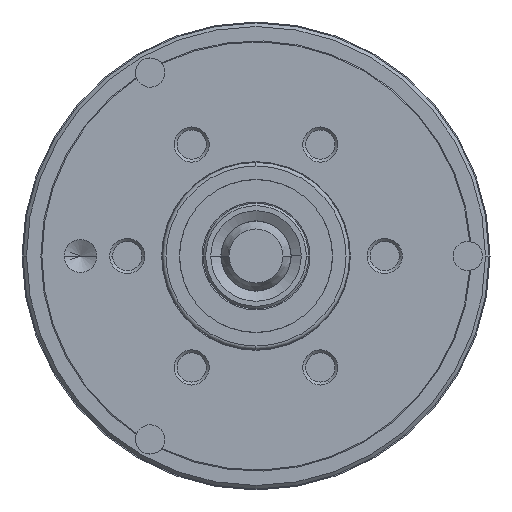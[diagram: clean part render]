
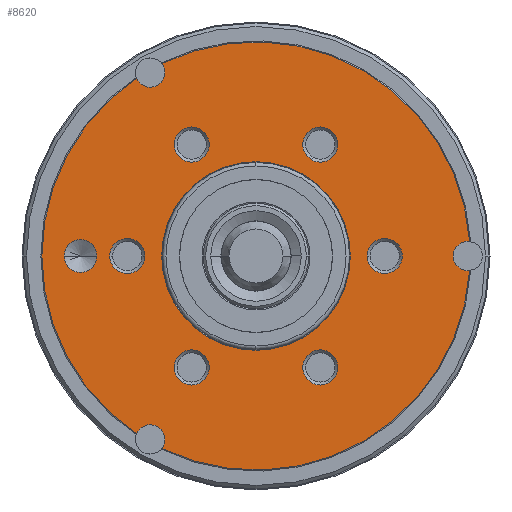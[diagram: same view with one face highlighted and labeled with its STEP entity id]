
A CAD part, left-side view. The second image highlights one B-rep face of the part: STEP entity #8620.
In plain terms, the highlighted planar face has unit normal (-1, 0, 0).
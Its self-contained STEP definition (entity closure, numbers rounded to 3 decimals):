
#977=CARTESIAN_POINT('',(-0.05,0.,0.));
#978=DIRECTION('',(-1.,0.,0.));
#979=DIRECTION('',(0.,0.44,-0.898));
#980=AXIS2_PLACEMENT_3D('',#977,#978,#979);
#994=CARTESIAN_POINT('',(-0.05,9.05,-15.675));
#995=DIRECTION('',(1.,0.,0.));
#996=DIRECTION('',(0.,0.922,0.387));
#997=AXIS2_PLACEMENT_3D('',#994,#995,#996);
#1065=CARTESIAN_POINT('',(-0.05,0.,0.));
#1066=DIRECTION('',(-1.,0.,0.));
#1067=DIRECTION('',(0.,0.558,0.83));
#1068=AXIS2_PLACEMENT_3D('',#1065,#1066,#1067);
#1090=CARTESIAN_POINT('',(-0.05,9.05,15.675));
#1091=DIRECTION('',(1.,0.,0.));
#1092=DIRECTION('',(0.,-0.796,0.605));
#1093=AXIS2_PLACEMENT_3D('',#1090,#1091,#1092);
#1153=CARTESIAN_POINT('',(-0.05,0.,0.));
#1154=DIRECTION('',(-1.,0.,0.));
#1155=DIRECTION('',(0.,-0.998,0.068));
#1156=AXIS2_PLACEMENT_3D('',#1153,#1154,#1155);
#1178=CARTESIAN_POINT('',(-0.05,-18.1,0.));
#1179=DIRECTION('',(1.,0.,0.));
#1180=DIRECTION('',(0.,-0.126,-0.992));
#1181=AXIS2_PLACEMENT_3D('',#1178,#1179,#1180);
#1232=CARTESIAN_POINT('',(-0.05,0.,0.));
#1233=DIRECTION('',(1.,0.,0.));
#1234=DIRECTION('',(0.,1.,0.));
#1235=AXIS2_PLACEMENT_3D('',#1232,#1233,#1234);
#1240=CARTESIAN_POINT('',(-0.05,0.,0.));
#1241=DIRECTION('',(-1.,0.,0.));
#1242=DIRECTION('',(0.,1.,0.));
#1243=AXIS2_PLACEMENT_3D('',#1240,#1241,#1242);
#1248=CARTESIAN_POINT('',(-0.05,11.,0.));
#1249=DIRECTION('',(-1.,0.,0.));
#1250=DIRECTION('',(0.,1.,0.));
#1251=AXIS2_PLACEMENT_3D('',#1248,#1249,#1250);
#1256=CARTESIAN_POINT('',(-0.05,11.,0.));
#1257=DIRECTION('',(-1.,0.,0.));
#1258=DIRECTION('',(0.,-1.,0.));
#1259=AXIS2_PLACEMENT_3D('',#1256,#1257,#1258);
#1264=CARTESIAN_POINT('',(-0.05,5.5,9.526));
#1265=DIRECTION('',(-1.,0.,0.));
#1266=DIRECTION('',(0.,0.5,0.866));
#1267=AXIS2_PLACEMENT_3D('',#1264,#1265,#1266);
#1272=CARTESIAN_POINT('',(-0.05,5.5,9.526));
#1273=DIRECTION('',(-1.,0.,0.));
#1274=DIRECTION('',(0.,-0.5,-0.866));
#1275=AXIS2_PLACEMENT_3D('',#1272,#1273,#1274);
#1280=CARTESIAN_POINT('',(-0.05,-5.5,9.526));
#1281=DIRECTION('',(-1.,0.,0.));
#1282=DIRECTION('',(0.,-0.5,0.866));
#1283=AXIS2_PLACEMENT_3D('',#1280,#1281,#1282);
#1288=CARTESIAN_POINT('',(-0.05,-5.5,9.526));
#1289=DIRECTION('',(-1.,0.,0.));
#1290=DIRECTION('',(0.,0.5,-0.866));
#1291=AXIS2_PLACEMENT_3D('',#1288,#1289,#1290);
#1296=CARTESIAN_POINT('',(-0.05,-11.,0.));
#1297=DIRECTION('',(-1.,0.,0.));
#1298=DIRECTION('',(0.,-1.,0.));
#1299=AXIS2_PLACEMENT_3D('',#1296,#1297,#1298);
#1304=CARTESIAN_POINT('',(-0.05,-11.,0.));
#1305=DIRECTION('',(-1.,0.,0.));
#1306=DIRECTION('',(0.,1.,0.));
#1307=AXIS2_PLACEMENT_3D('',#1304,#1305,#1306);
#1312=CARTESIAN_POINT('',(-0.05,-5.5,-9.526));
#1313=DIRECTION('',(-1.,0.,0.));
#1314=DIRECTION('',(0.,-0.5,-0.866));
#1315=AXIS2_PLACEMENT_3D('',#1312,#1313,#1314);
#1320=CARTESIAN_POINT('',(-0.05,-5.5,-9.526));
#1321=DIRECTION('',(-1.,0.,0.));
#1322=DIRECTION('',(0.,0.5,0.866));
#1323=AXIS2_PLACEMENT_3D('',#1320,#1321,#1322);
#1328=CARTESIAN_POINT('',(-0.05,5.5,-9.526));
#1329=DIRECTION('',(-1.,0.,0.));
#1330=DIRECTION('',(0.,0.5,-0.866));
#1331=AXIS2_PLACEMENT_3D('',#1328,#1329,#1330);
#1336=CARTESIAN_POINT('',(-0.05,5.5,-9.526));
#1337=DIRECTION('',(-1.,0.,0.));
#1338=DIRECTION('',(0.,-0.5,0.866));
#1339=AXIS2_PLACEMENT_3D('',#1336,#1337,#1338);
#1344=CARTESIAN_POINT('',(-0.05,15.,0.));
#1345=DIRECTION('',(-1.,0.,0.));
#1346=DIRECTION('',(0.,1.,0.));
#1347=AXIS2_PLACEMENT_3D('',#1344,#1345,#1346);
#1352=CARTESIAN_POINT('',(-0.05,15.,0.));
#1353=DIRECTION('',(-1.,0.,0.));
#1354=DIRECTION('',(0.,-1.,0.));
#1355=AXIS2_PLACEMENT_3D('',#1352,#1353,#1354);
#6630=CARTESIAN_POINT('',(-0.05,12.5,0.));
#6631=CARTESIAN_POINT('',(-0.05,9.5,0.));
#6632=VERTEX_POINT('',#6630);
#6633=VERTEX_POINT('',#6631);
#6654=CARTESIAN_POINT('',(-0.05,6.25,10.825));
#6655=CARTESIAN_POINT('',(-0.05,4.75,8.227));
#6656=VERTEX_POINT('',#6654);
#6657=VERTEX_POINT('',#6655);
#6658=CARTESIAN_POINT('',(-0.05,-6.25,10.825));
#6659=CARTESIAN_POINT('',(-0.05,-4.75,8.227));
#6660=VERTEX_POINT('',#6658);
#6661=VERTEX_POINT('',#6659);
#6662=CARTESIAN_POINT('',(-0.05,-12.5,0.));
#6663=CARTESIAN_POINT('',(-0.05,-9.5,0.));
#6664=VERTEX_POINT('',#6662);
#6665=VERTEX_POINT('',#6663);
#6666=CARTESIAN_POINT('',(-0.05,-6.25,-10.825));
#6667=CARTESIAN_POINT('',(-0.05,-4.75,-8.227));
#6668=VERTEX_POINT('',#6666);
#6669=VERTEX_POINT('',#6667);
#6670=CARTESIAN_POINT('',(-0.05,6.25,-10.825));
#6671=CARTESIAN_POINT('',(-0.05,4.75,-8.227));
#6672=VERTEX_POINT('',#6670);
#6673=VERTEX_POINT('',#6671);
#6680=CARTESIAN_POINT('',(-0.05,16.4,0.));
#6681=CARTESIAN_POINT('',(-0.05,13.6,0.));
#6682=VERTEX_POINT('',#6680);
#6683=VERTEX_POINT('',#6681);
#6684=CARTESIAN_POINT('',(-0.05,8.058,0.));
#6685=CARTESIAN_POINT('',(-0.05,-8.058,0.));
#6686=VERTEX_POINT('',#6684);
#6687=VERTEX_POINT('',#6685);
#6688=CARTESIAN_POINT('',(-0.05,-18.258,
-1.24));
#6689=CARTESIAN_POINT('',(-0.05,-18.258,
1.24));
#6690=VERTEX_POINT('',#6688);
#6691=VERTEX_POINT('',#6689);
#6692=CARTESIAN_POINT('',(-0.05,8.055,
-16.432));
#6693=VERTEX_POINT('',#6692);
#6694=CARTESIAN_POINT('',(-0.05,10.203,
-15.192));
#6695=VERTEX_POINT('',#6694);
#6696=CARTESIAN_POINT('',(-0.05,8.055,
16.432));
#6697=VERTEX_POINT('',#6696);
#6698=CARTESIAN_POINT('',(-0.05,10.203,
15.192));
#6699=VERTEX_POINT('',#6698);
#8559=CARTESIAN_POINT('',(-0.05,0.,0.));
#8560=DIRECTION('',(1.,0.,0.));
#8561=DIRECTION('',(0.,-1.,0.));
#8562=AXIS2_PLACEMENT_3D('',#8559,#8560,#8561);
#8563=PLANE('',#8562);
#8564=ORIENTED_EDGE('',*,*,#8465,.F.);
#8565=ORIENTED_EDGE('',*,*,#8506,.F.);
#8566=ORIENTED_EDGE('',*,*,#8526,.F.);
#8567=ORIENTED_EDGE('',*,*,#8381,.F.);
#8568=ORIENTED_EDGE('',*,*,#8397,.F.);
#8569=ORIENTED_EDGE('',*,*,#8444,.F.);
#8570=EDGE_LOOP('',(#8564,#8565,#8566,#8567,#8568,#8569));
#8571=FACE_OUTER_BOUND('',#8570,.F.);
#8573=ORIENTED_EDGE('',*,*,#8572,.F.);
#8575=ORIENTED_EDGE('',*,*,#8574,.T.);
#8576=EDGE_LOOP('',(#8573,#8575));
#8577=FACE_BOUND('',#8576,.F.);
#8579=ORIENTED_EDGE('',*,*,#8578,.T.);
#8581=ORIENTED_EDGE('',*,*,#8580,.T.);
#8582=EDGE_LOOP('',(#8579,#8581));
#8583=FACE_BOUND('',#8582,.F.);
#8585=ORIENTED_EDGE('',*,*,#8584,.T.);
#8587=ORIENTED_EDGE('',*,*,#8586,.T.);
#8588=EDGE_LOOP('',(#8585,#8587));
#8589=FACE_BOUND('',#8588,.F.);
#8591=ORIENTED_EDGE('',*,*,#8590,.T.);
#8593=ORIENTED_EDGE('',*,*,#8592,.T.);
#8594=EDGE_LOOP('',(#8591,#8593));
#8595=FACE_BOUND('',#8594,.F.);
#8597=ORIENTED_EDGE('',*,*,#8596,.T.);
#8599=ORIENTED_EDGE('',*,*,#8598,.T.);
#8600=EDGE_LOOP('',(#8597,#8599));
#8601=FACE_BOUND('',#8600,.F.);
#8603=ORIENTED_EDGE('',*,*,#8602,.T.);
#8605=ORIENTED_EDGE('',*,*,#8604,.T.);
#8606=EDGE_LOOP('',(#8603,#8605));
#8607=FACE_BOUND('',#8606,.F.);
#8609=ORIENTED_EDGE('',*,*,#8608,.T.);
#8611=ORIENTED_EDGE('',*,*,#8610,.T.);
#8612=EDGE_LOOP('',(#8609,#8611));
#8613=FACE_BOUND('',#8612,.F.);
#8615=ORIENTED_EDGE('',*,*,#8614,.T.);
#8617=ORIENTED_EDGE('',*,*,#8616,.T.);
#8618=EDGE_LOOP('',(#8615,#8617));
#8619=FACE_BOUND('',#8618,.F.);
#8620=ADVANCED_FACE('',(#8571,#8577,#8583,#8589,#8595,#8601,#8607,#8613,#8619),
#8563,.F.);
#981=CIRCLE('',#980,18.3);
#998=CIRCLE('',#997,1.25);
#1069=CIRCLE('',#1068,18.3);
#1094=CIRCLE('',#1093,1.25);
#1157=CIRCLE('',#1156,18.3);
#1182=CIRCLE('',#1181,1.25);
#1236=CIRCLE('',#1235,8.058);
#1244=CIRCLE('',#1243,8.058);
#1252=CIRCLE('',#1251,1.5);
#1260=CIRCLE('',#1259,1.5);
#1268=CIRCLE('',#1267,1.5);
#1276=CIRCLE('',#1275,1.5);
#1284=CIRCLE('',#1283,1.5);
#1292=CIRCLE('',#1291,1.5);
#1300=CIRCLE('',#1299,1.5);
#1308=CIRCLE('',#1307,1.5);
#1316=CIRCLE('',#1315,1.5);
#1324=CIRCLE('',#1323,1.5);
#1332=CIRCLE('',#1331,1.5);
#1340=CIRCLE('',#1339,1.5);
#1348=CIRCLE('',#1347,1.4);
#1356=CIRCLE('',#1355,1.4);
#8381=EDGE_CURVE('',#6693,#6690,#981,.T.);
#8397=EDGE_CURVE('',#6695,#6693,#998,.T.);
#8444=EDGE_CURVE('',#6699,#6695,#1069,.T.);
#8465=EDGE_CURVE('',#6697,#6699,#1094,.T.);
#8506=EDGE_CURVE('',#6691,#6697,#1157,.T.);
#8526=EDGE_CURVE('',#6690,#6691,#1182,.T.);
#8572=EDGE_CURVE('',#6686,#6687,#1236,.T.);
#8574=EDGE_CURVE('',#6686,#6687,#1244,.T.);
#8578=EDGE_CURVE('',#6632,#6633,#1252,.T.);
#8580=EDGE_CURVE('',#6633,#6632,#1260,.T.);
#8584=EDGE_CURVE('',#6656,#6657,#1268,.T.);
#8586=EDGE_CURVE('',#6657,#6656,#1276,.T.);
#8590=EDGE_CURVE('',#6660,#6661,#1284,.T.);
#8592=EDGE_CURVE('',#6661,#6660,#1292,.T.);
#8596=EDGE_CURVE('',#6664,#6665,#1300,.T.);
#8598=EDGE_CURVE('',#6665,#6664,#1308,.T.);
#8602=EDGE_CURVE('',#6668,#6669,#1316,.T.);
#8604=EDGE_CURVE('',#6669,#6668,#1324,.T.);
#8608=EDGE_CURVE('',#6672,#6673,#1332,.T.);
#8610=EDGE_CURVE('',#6673,#6672,#1340,.T.);
#8614=EDGE_CURVE('',#6682,#6683,#1348,.T.);
#8616=EDGE_CURVE('',#6683,#6682,#1356,.T.);
